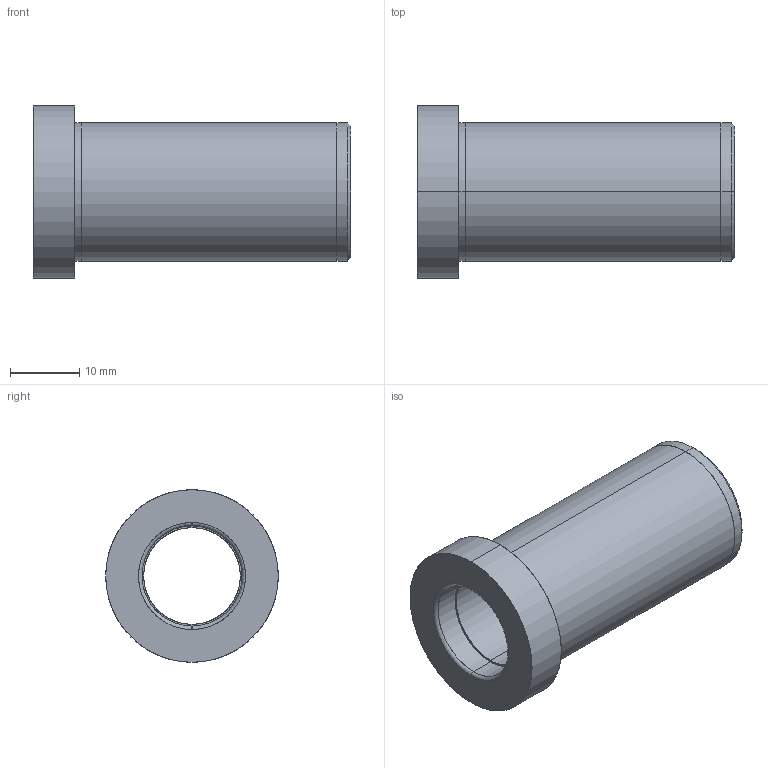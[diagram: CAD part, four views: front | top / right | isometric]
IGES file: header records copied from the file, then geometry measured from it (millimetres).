
Start section: SolidWorks IGES file using analytic representation for surfaces
Global section: file name: C:\Documents and Settings\kalite-mail\Desktop\IGS\D20\D20 - 14x46.IGS; native system: SolidWorks 2008; preprocessor: SolidWorks 2008; author: kalite-mail; date: 080617.112315; units: millimetre
Bounding box: 46 x 25 x 25 mm (x, y, z)
Surface area: 5653.7 mm2 (no closed solid volume)
Topology: 0 solids, 0 shells, 24 faces, 456 edges, 456 vertices
Faces by surface type: revolution 14, bspline 10
